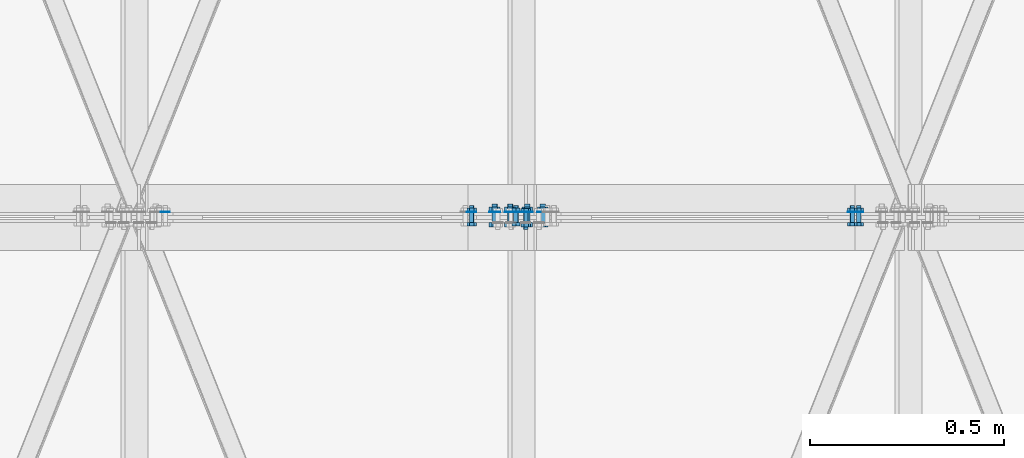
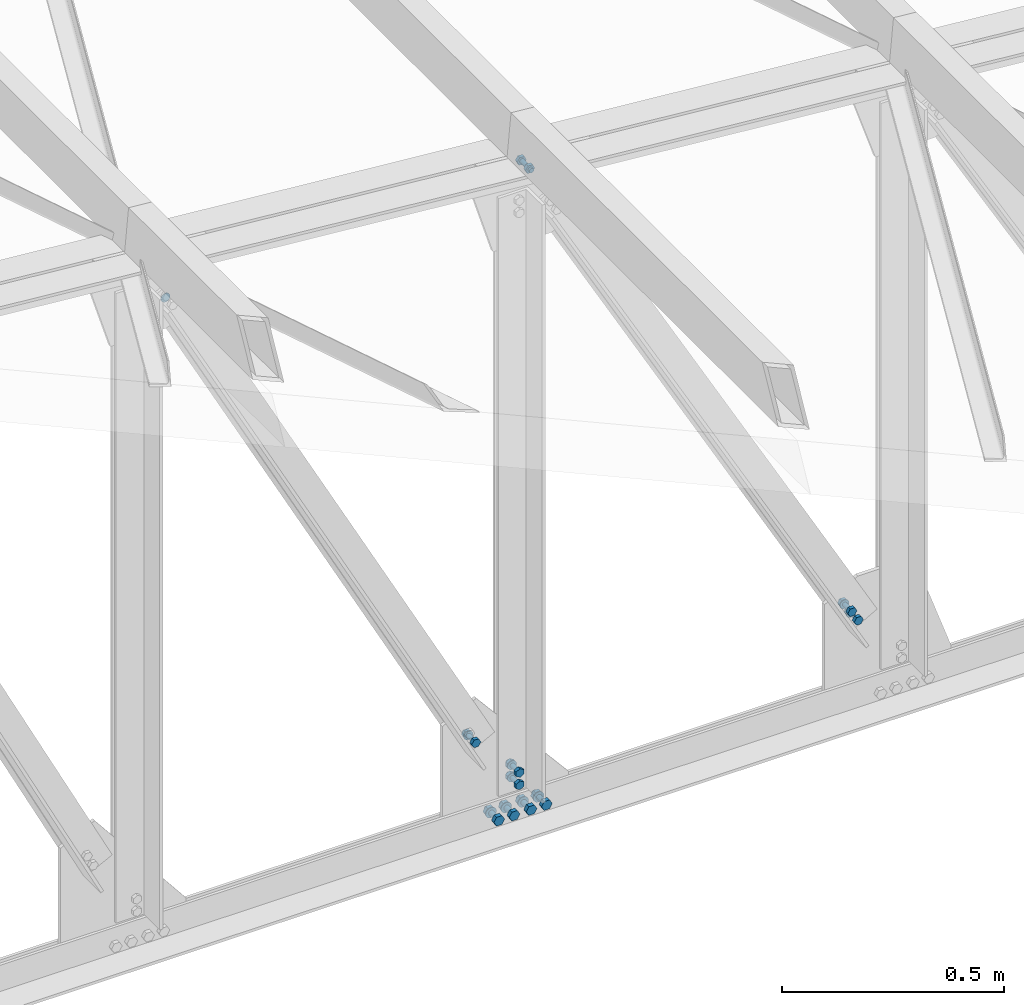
# One storey, part 81 of 251: 40 mechanical fasteners.
"""IFC4 building model written with IfcOpenShell, lengths in metres."""

from ifc_helpers import new_model, si_unit, frame, origin_with_axes, place, context, project, spatial, polyline, outline, extrude, type_object, element, save


model = new_model("IFC4")

# Units and contexts
model_context = context("Model", 3, precision=1e-05, world=origin_with_axes())
ifc_project = project(units=[si_unit("LENGTHUNIT", "METRE"), si_unit("AREAUNIT", "SQUARE_METRE"), si_unit("VOLUMEUNIT", "CUBIC_METRE"), si_unit("MASSUNIT", "GRAM", prefix="KILO"), si_unit("TIMEUNIT", "SECOND"), si_unit("PLANEANGLEUNIT", "RADIAN"), si_unit("SOLIDANGLEUNIT", "STERADIAN"), si_unit("THERMODYNAMICTEMPERATUREUNIT", "DEGREE_CELSIUS")], contexts=[model_context])

# Site, building, storey
placement_1 = place(None, origin_with_axes())
site = spatial("IfcSite", under=ifc_project, at=placement_1, Name="Italia", CompositionType="ELEMENT")
building = spatial("IfcBuilding", under=site, at=placement_1, Name="Deposito", CompositionType="ELEMENT")
storey = spatial("IfcBuildingStorey", under=building, at=placement_1, Name="Storey 0", CompositionType="ELEMENT", Elevation=0.0)

# Mechanical fasteners
mechanical_fastener_type_1 = type_object("IfcMechanicalFastenerType", Name="Reticolare 3", PredefinedType="BOLT")
placement_2 = place(placement_1, origin_with_axes())
mechanical_fastener_1_placement = place(placement_2, origin_with_axes())
element("IfcMechanicalFastener", 1, at=mechanical_fastener_1_placement, inside=storey, type_object=mechanical_fastener_type_1, Name="Reticolare 3", NominalDiameter=0.0139997, context=model_context, shape_type="SweptSolid", body=[
    extrude(outline(polyline([(0.0, 0.0), (-0.0139999, 0.0), (-0.0209999, 0.0121241), (-0.0139999, 0.0242486), (0.0, 0.0242486), (0.00699997, 0.0121241), (0.0, 0.0)])), frame((11.0192, 4.987, 4.99688), z_axis=(0.0, -1.0, 0.0), x_axis=(1.0, 0.0, 0.0)), (0.0, 0.0, 1.0), 0.0112),
])
mechanical_fastener_type_2 = type_object("IfcMechanicalFastenerType", Name="Reticolare 3", PredefinedType="BOLT")
mechanical_fastener_2_placement = place(placement_2, origin_with_axes())
element("IfcMechanicalFastener", 2, at=mechanical_fastener_2_placement, inside=storey, type_object=mechanical_fastener_type_2, Name="Reticolare 3", NominalDiameter=0.014, context=model_context, shape_type="SweptSolid", body=[
    extrude(outline(polyline([(0.0, 0.0), (-0.000238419, -0.0018115), (-0.000937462, -0.00349998), (-0.0020504, -0.00494957), (-0.00349998, -0.00606203), (-0.00518799, -0.00676155), (-0.00699997, -0.00699997), (-0.00881195, -0.00676155), (-0.0105, -0.00606203), (-0.0119495, -0.00494957), (-0.0130625, -0.00349998), (-0.0137615, -0.0018115), (-0.0139999, 0.0), (-0.0137615, 0.0018115), (-0.0130625, 0.00349998), (-0.0119495, 0.00494957), (-0.0105, 0.00606203), (-0.00881195, 0.00676155), (-0.00699997, 0.00699997), (-0.00518799, 0.00676155), (-0.00349998, 0.00606203), (-0.0020504, 0.00494957), (-0.000937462, 0.00349998), (-0.000238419, 0.0018115), (0.0, 0.0)])), frame((11.0192, 5.034, 5.009), z_axis=(0.0, -1.0, 0.0), x_axis=(1.0, 0.0, 0.0)), (0.0, 0.0, 1.0), 0.0469999),
])
mechanical_fastener_type_3 = type_object("IfcMechanicalFastenerType", Name="Reticolare 3", PredefinedType="BOLT")
mechanical_fastener_3_placement = place(placement_2, origin_with_axes())
element("IfcMechanicalFastener", 3, at=mechanical_fastener_3_placement, inside=storey, type_object=mechanical_fastener_type_3, Name="Reticolare 3", NominalDiameter=0.0139997, context=model_context, shape_type="SweptSolid", body=[
    extrude(outline(polyline([(0.0, 0.0), (-0.0139999, 0.0), (-0.0209999, 0.0121241), (-0.0139999, 0.0242486), (0.0, 0.0242486), (0.00699997, 0.0121241), (0.0, 0.0)])), frame((11.0192, 5.0262, 4.99688), z_axis=(0.0, -1.0, 0.0), x_axis=(1.0, 0.0, 0.0)), (0.0, 0.0, 1.0), 0.0112),
])
mechanical_fastener_type_4 = type_object("IfcMechanicalFastenerType", Name="Reticolare 3", PredefinedType="BOLT")
mechanical_fastener_4_placement = place(placement_2, origin_with_axes())
element("IfcMechanicalFastener", 4, at=mechanical_fastener_4_placement, inside=storey, type_object=mechanical_fastener_type_4, Name="Reticolare 3", NominalDiameter=0.028, context=model_context, shape_type="SweptSolid", body=[
    extrude(outline(polyline([(0.0, 0.0), (-0.000476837, -0.00362349), (-0.00187588, -0.00699997), (-0.0041008, -0.00989962), (-0.00699997, -0.0121245), (-0.0103769, -0.0135231), (-0.0139999, -0.0139999), (-0.0176229, -0.0135231), (-0.0209999, -0.0121245), (-0.0238991, -0.00989962), (-0.026124, -0.00699997), (-0.027523, -0.00362349), (-0.0279999, 0.0), (-0.027523, 0.00362349), (-0.026124, 0.00699997), (-0.0238991, 0.00989962), (-0.0209999, 0.0121245), (-0.0176229, 0.0135231), (-0.0139999, 0.0139999), (-0.0103769, 0.0135231), (-0.00699997, 0.0121245), (-0.0041008, 0.00989962), (-0.00187588, 0.00699997), (-0.000476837, 0.00362349), (0.0, 0.0)])), frame((11.0262, 5.015, 5.009), z_axis=(0.0, -1.0, 0.0), x_axis=(1.0, 0.0, 0.0)), (0.0, 0.0, 1.0), 0.00199986),
])
mechanical_fastener_type_5 = type_object("IfcMechanicalFastenerType", Name="Reticolare 3", PredefinedType="BOLT")
mechanical_fastener_5_placement = place(placement_2, origin_with_axes())
element("IfcMechanicalFastener", 5, at=mechanical_fastener_5_placement, inside=storey, type_object=mechanical_fastener_type_5, Name="Reticolare 3", NominalDiameter=0.0139997, context=model_context, shape_type="SweptSolid", body=[
    extrude(outline(polyline([(0.0, 0.0), (-0.0139999, 0.0), (-0.0209999, 0.0121241), (-0.0139999, 0.0242486), (0.0, 0.0242486), (0.00699997, 0.0121241), (0.0, 0.0)])), frame((10.9792, 4.987, 4.99688), z_axis=(0.0, -1.0, 0.0), x_axis=(1.0, 0.0, 0.0)), (0.0, 0.0, 1.0), 0.0112),
])
mechanical_fastener_type_6 = type_object("IfcMechanicalFastenerType", Name="Reticolare 3", PredefinedType="BOLT")
mechanical_fastener_6_placement = place(placement_2, origin_with_axes())
element("IfcMechanicalFastener", 6, at=mechanical_fastener_6_placement, inside=storey, type_object=mechanical_fastener_type_6, Name="Reticolare 3", NominalDiameter=0.014, context=model_context, shape_type="SweptSolid", body=[
    extrude(outline(polyline([(0.0, 0.0), (-0.000238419, -0.0018115), (-0.000937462, -0.00349998), (-0.0020504, -0.00494957), (-0.00349998, -0.00606203), (-0.00518799, -0.00676155), (-0.00699997, -0.00699997), (-0.00881195, -0.00676155), (-0.0105, -0.00606203), (-0.0119495, -0.00494957), (-0.0130625, -0.00349998), (-0.0137615, -0.0018115), (-0.0139999, 0.0), (-0.0137615, 0.0018115), (-0.0130625, 0.00349998), (-0.0119495, 0.00494957), (-0.0105, 0.00606203), (-0.00881195, 0.00676155), (-0.00699997, 0.00699997), (-0.00518799, 0.00676155), (-0.00349998, 0.00606203), (-0.0020504, 0.00494957), (-0.000937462, 0.00349998), (-0.000238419, 0.0018115), (0.0, 0.0)])), frame((10.9792, 5.034, 5.009), z_axis=(0.0, -1.0, 0.0), x_axis=(1.0, 0.0, 0.0)), (0.0, 0.0, 1.0), 0.0469999),
])
mechanical_fastener_type_7 = type_object("IfcMechanicalFastenerType", Name="Reticolare 3", PredefinedType="BOLT")
mechanical_fastener_7_placement = place(placement_2, origin_with_axes())
element("IfcMechanicalFastener", 7, at=mechanical_fastener_7_placement, inside=storey, type_object=mechanical_fastener_type_7, Name="Reticolare 3", NominalDiameter=0.0139997, context=model_context, shape_type="SweptSolid", body=[
    extrude(outline(polyline([(0.0, 0.0), (-0.0139999, 0.0), (-0.0209999, 0.0121241), (-0.0139999, 0.0242486), (0.0, 0.0242486), (0.00699997, 0.0121241), (0.0, 0.0)])), frame((10.9792, 5.0262, 4.99688), z_axis=(0.0, -1.0, 0.0), x_axis=(1.0, 0.0, 0.0)), (0.0, 0.0, 1.0), 0.0112),
])
mechanical_fastener_type_8 = type_object("IfcMechanicalFastenerType", Name="Reticolare 3", PredefinedType="BOLT")
mechanical_fastener_8_placement = place(placement_2, origin_with_axes())
element("IfcMechanicalFastener", 8, at=mechanical_fastener_8_placement, inside=storey, type_object=mechanical_fastener_type_8, Name="Reticolare 3", NominalDiameter=0.028, context=model_context, shape_type="SweptSolid", body=[
    extrude(outline(polyline([(0.0, 0.0), (-0.000476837, -0.00362349), (-0.00187588, -0.00699997), (-0.0041008, -0.00989962), (-0.00699997, -0.0121245), (-0.0103769, -0.0135231), (-0.0139999, -0.0139999), (-0.0176229, -0.0135231), (-0.0209999, -0.0121245), (-0.0238991, -0.00989962), (-0.026124, -0.00699997), (-0.027523, -0.00362349), (-0.0279999, 0.0), (-0.027523, 0.00362349), (-0.026124, 0.00699997), (-0.0238991, 0.00989962), (-0.0209999, 0.0121245), (-0.0176229, 0.0135231), (-0.0139999, 0.0139999), (-0.0103769, 0.0135231), (-0.00699997, 0.0121245), (-0.0041008, 0.00989962), (-0.00187588, 0.00699997), (-0.000476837, 0.00362349), (0.0, 0.0)])), frame((10.9862, 5.015, 5.009), z_axis=(0.0, -1.0, 0.0), x_axis=(1.0, 0.0, 0.0)), (0.0, 0.0, 1.0), 0.00199986),
])
mechanical_fastener_type_9 = type_object("IfcMechanicalFastenerType", Name="Reticolare 3", PredefinedType="BOLT")
mechanical_fastener_9_placement = place(placement_2, origin_with_axes())
element("IfcMechanicalFastener", 9, at=mechanical_fastener_9_placement, inside=storey, type_object=mechanical_fastener_type_9, Name="Reticolare 3", NominalDiameter=0.0139997, context=model_context, shape_type="SweptSolid", body=[
    extrude(outline(polyline([(0.0, 0.0), (-0.0139999, 0.0), (-0.0209999, 0.0121241), (-0.0139999, 0.0242486), (0.0, 0.0242486), (0.00699997, 0.0121241), (0.0, 0.0)])), frame((11.0632, 4.987, 4.99688), z_axis=(0.0, -1.0, 0.0), x_axis=(1.0, 0.0, 0.0)), (0.0, 0.0, 1.0), 0.0112),
])
mechanical_fastener_type_10 = type_object("IfcMechanicalFastenerType", Name="Reticolare 3", PredefinedType="BOLT")
mechanical_fastener_10_placement = place(placement_2, origin_with_axes())
element("IfcMechanicalFastener", 10, at=mechanical_fastener_10_placement, inside=storey, type_object=mechanical_fastener_type_10, Name="Reticolare 3", NominalDiameter=0.014, context=model_context, shape_type="SweptSolid", body=[
    extrude(outline(polyline([(0.0, 0.0), (-0.000238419, -0.0018115), (-0.000937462, -0.00349998), (-0.0020504, -0.00494957), (-0.00349998, -0.00606203), (-0.00518799, -0.00676155), (-0.00699997, -0.00699997), (-0.00881195, -0.00676155), (-0.0105, -0.00606203), (-0.0119495, -0.00494957), (-0.0130625, -0.00349998), (-0.0137615, -0.0018115), (-0.0139999, 0.0), (-0.0137615, 0.0018115), (-0.0130625, 0.00349998), (-0.0119495, 0.00494957), (-0.0105, 0.00606203), (-0.00881195, 0.00676155), (-0.00699997, 0.00699997), (-0.00518799, 0.00676155), (-0.00349998, 0.00606203), (-0.0020504, 0.00494957), (-0.000937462, 0.00349998), (-0.000238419, 0.0018115), (0.0, 0.0)])), frame((11.0632, 5.034, 5.009), z_axis=(0.0, -1.0, 0.0), x_axis=(1.0, 0.0, 0.0)), (0.0, 0.0, 1.0), 0.0469999),
])
mechanical_fastener_type_11 = type_object("IfcMechanicalFastenerType", Name="Reticolare 3", PredefinedType="BOLT")
mechanical_fastener_11_placement = place(placement_2, origin_with_axes())
element("IfcMechanicalFastener", 11, at=mechanical_fastener_11_placement, inside=storey, type_object=mechanical_fastener_type_11, Name="Reticolare 3", NominalDiameter=0.0139997, context=model_context, shape_type="SweptSolid", body=[
    extrude(outline(polyline([(0.0, 0.0), (-0.0139999, 0.0), (-0.0209999, 0.0121241), (-0.0139999, 0.0242486), (0.0, 0.0242486), (0.00699997, 0.0121241), (0.0, 0.0)])), frame((11.0632, 5.0262, 4.99688), z_axis=(0.0, -1.0, 0.0), x_axis=(1.0, 0.0, 0.0)), (0.0, 0.0, 1.0), 0.0112),
])
mechanical_fastener_type_12 = type_object("IfcMechanicalFastenerType", Name="Reticolare 3", PredefinedType="BOLT")
mechanical_fastener_12_placement = place(placement_2, origin_with_axes())
element("IfcMechanicalFastener", 12, at=mechanical_fastener_12_placement, inside=storey, type_object=mechanical_fastener_type_12, Name="Reticolare 3", NominalDiameter=0.028, context=model_context, shape_type="SweptSolid", body=[
    extrude(outline(polyline([(0.0, 0.0), (-0.000476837, -0.00362349), (-0.00187588, -0.00699997), (-0.0041008, -0.00989962), (-0.00699997, -0.0121245), (-0.0103769, -0.0135231), (-0.0139999, -0.0139999), (-0.0176229, -0.0135231), (-0.0209999, -0.0121245), (-0.0238991, -0.00989962), (-0.026124, -0.00699997), (-0.027523, -0.00362349), (-0.0279999, 0.0), (-0.027523, 0.00362349), (-0.026124, 0.00699997), (-0.0238991, 0.00989962), (-0.0209999, 0.0121245), (-0.0176229, 0.0135231), (-0.0139999, 0.0139999), (-0.0103769, 0.0135231), (-0.00699997, 0.0121245), (-0.0041008, 0.00989962), (-0.00187588, 0.00699997), (-0.000476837, 0.00362349), (0.0, 0.0)])), frame((11.0702, 5.015, 5.009), z_axis=(0.0, -1.0, 0.0), x_axis=(1.0, 0.0, 0.0)), (0.0, 0.0, 1.0), 0.00199986),
])
mechanical_fastener_type_13 = type_object("IfcMechanicalFastenerType", Name="Reticolare 3", PredefinedType="BOLT")
mechanical_fastener_13_placement = place(placement_2, origin_with_axes())
element("IfcMechanicalFastener", 13, at=mechanical_fastener_13_placement, inside=storey, type_object=mechanical_fastener_type_13, Name="Reticolare 3", NominalDiameter=0.0139997, context=model_context, shape_type="SweptSolid", body=[
    extrude(outline(polyline([(0.0, 0.0), (-0.0139999, 0.0), (-0.0209999, 0.0121241), (-0.0139999, 0.0242486), (0.0, 0.0242486), (0.00699997, 0.0121241), (0.0, 0.0)])), frame((11.1032, 4.987, 4.99688), z_axis=(0.0, -1.0, 0.0), x_axis=(1.0, 0.0, 0.0)), (0.0, 0.0, 1.0), 0.0112),
])
mechanical_fastener_type_14 = type_object("IfcMechanicalFastenerType", Name="Reticolare 3", PredefinedType="BOLT")
mechanical_fastener_14_placement = place(placement_2, origin_with_axes())
element("IfcMechanicalFastener", 14, at=mechanical_fastener_14_placement, inside=storey, type_object=mechanical_fastener_type_14, Name="Reticolare 3", NominalDiameter=0.014, context=model_context, shape_type="SweptSolid", body=[
    extrude(outline(polyline([(0.0, 0.0), (-0.000238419, -0.0018115), (-0.000937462, -0.00349998), (-0.0020504, -0.00494957), (-0.00349998, -0.00606203), (-0.00518799, -0.00676155), (-0.00699997, -0.00699997), (-0.00881195, -0.00676155), (-0.0105, -0.00606203), (-0.0119495, -0.00494957), (-0.0130625, -0.00349998), (-0.0137615, -0.0018115), (-0.0139999, 0.0), (-0.0137615, 0.0018115), (-0.0130625, 0.00349998), (-0.0119495, 0.00494957), (-0.0105, 0.00606203), (-0.00881195, 0.00676155), (-0.00699997, 0.00699997), (-0.00518799, 0.00676155), (-0.00349998, 0.00606203), (-0.0020504, 0.00494957), (-0.000937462, 0.00349998), (-0.000238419, 0.0018115), (0.0, 0.0)])), frame((11.1032, 5.034, 5.009), z_axis=(0.0, -1.0, 0.0), x_axis=(1.0, 0.0, 0.0)), (0.0, 0.0, 1.0), 0.0469999),
])
mechanical_fastener_type_15 = type_object("IfcMechanicalFastenerType", Name="Reticolare 3", PredefinedType="BOLT")
mechanical_fastener_15_placement = place(placement_2, origin_with_axes())
element("IfcMechanicalFastener", 15, at=mechanical_fastener_15_placement, inside=storey, type_object=mechanical_fastener_type_15, Name="Reticolare 3", NominalDiameter=0.0139997, context=model_context, shape_type="SweptSolid", body=[
    extrude(outline(polyline([(0.0, 0.0), (-0.0139999, 0.0), (-0.0209999, 0.0121241), (-0.0139999, 0.0242486), (0.0, 0.0242486), (0.00699997, 0.0121241), (0.0, 0.0)])), frame((11.1032, 5.0262, 4.99688), z_axis=(0.0, -1.0, 0.0), x_axis=(1.0, 0.0, 0.0)), (0.0, 0.0, 1.0), 0.0112),
])
mechanical_fastener_type_16 = type_object("IfcMechanicalFastenerType", Name="Reticolare 3", PredefinedType="BOLT")
mechanical_fastener_16_placement = place(placement_2, origin_with_axes())
element("IfcMechanicalFastener", 16, at=mechanical_fastener_16_placement, inside=storey, type_object=mechanical_fastener_type_16, Name="Reticolare 3", NominalDiameter=0.028, context=model_context, shape_type="SweptSolid", body=[
    extrude(outline(polyline([(0.0, 0.0), (-0.000476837, -0.00362349), (-0.00187588, -0.00699997), (-0.0041008, -0.00989962), (-0.00699997, -0.0121245), (-0.0103769, -0.0135231), (-0.0139999, -0.0139999), (-0.0176229, -0.0135231), (-0.0209999, -0.0121245), (-0.0238991, -0.00989962), (-0.026124, -0.00699997), (-0.027523, -0.00362349), (-0.0279999, 0.0), (-0.027523, 0.00362349), (-0.026124, 0.00699997), (-0.0238991, 0.00989962), (-0.0209999, 0.0121245), (-0.0176229, 0.0135231), (-0.0139999, 0.0139999), (-0.0103769, 0.0135231), (-0.00699997, 0.0121245), (-0.0041008, 0.00989962), (-0.00187588, 0.00699997), (-0.000476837, 0.00362349), (0.0, 0.0)])), frame((11.1102, 5.015, 5.009), z_axis=(0.0, -1.0, 0.0), x_axis=(1.0, 0.0, 0.0)), (0.0, 0.0, 1.0), 0.00199986),
])
mechanical_fastener_type_17 = type_object("IfcMechanicalFastenerType", Name="Reticolare 3", PredefinedType="BOLT")
mechanical_fastener_17_placement = place(placement_2, origin_with_axes())
element("IfcMechanicalFastener", 17, at=mechanical_fastener_17_placement, inside=storey, type_object=mechanical_fastener_type_17, Name="Reticolare 3", NominalDiameter=0.0119999, context=model_context, shape_type="SweptSolid", body=[
    extrude(outline(polyline([(0.0, 0.0), (0.0, -0.0120001), (-0.0103922, -0.0180001), (-0.0207844, -0.0120001), (-0.0207844, 0.0), (-0.0103922, 0.00600004), (0.0, 0.0)])), frame((11.0376, 4.987, 5.09253), z_axis=(0.0, -1.0, 0.0), x_axis=(1.0, 0.0, 0.0)), (0.0, 0.0, 1.0), 0.00960016),
])
mechanical_fastener_type_18 = type_object("IfcMechanicalFastenerType", Name="Reticolare 3", PredefinedType="BOLT")
mechanical_fastener_18_placement = place(placement_2, origin_with_axes())
element("IfcMechanicalFastener", 18, at=mechanical_fastener_18_placement, inside=storey, type_object=mechanical_fastener_type_18, Name="Reticolare 3", NominalDiameter=0.012, context=model_context, shape_type="SweptSolid", body=[
    extrude(outline(polyline([(0.0, 0.0), (-0.000204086, -0.00155306), (-0.000802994, -0.00299978), (-0.00175667, -0.00424242), (-0.00299931, -0.00519609), (-0.00444698, -0.00579548), (-0.00599957, -0.00600004), (-0.00755215, -0.00579548), (-0.00899982, -0.00519609), (-0.0102425, -0.00424242), (-0.0111961, -0.00299978), (-0.011795, -0.00155306), (-0.0119991, 0.0), (-0.011795, 0.00155306), (-0.0111961, 0.00299978), (-0.0102425, 0.00424242), (-0.00899982, 0.00519609), (-0.00755215, 0.00579548), (-0.00599957, 0.00600004), (-0.00444698, 0.00579548), (-0.00299931, 0.00519609), (-0.00175667, 0.00424242), (-0.000802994, 0.00299978), (-0.000204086, 0.00155306), (0.0, 0.0)])), frame((11.0332, 5.031, 5.08653), z_axis=(0.0, -1.0, 0.0), x_axis=(1.0, 0.0, 0.0)), (0.0, 0.0, 1.0), 0.0440001),
])
mechanical_fastener_type_19 = type_object("IfcMechanicalFastenerType", Name="Reticolare 3", PredefinedType="BOLT")
mechanical_fastener_19_placement = place(placement_2, origin_with_axes())
element("IfcMechanicalFastener", 19, at=mechanical_fastener_19_placement, inside=storey, type_object=mechanical_fastener_type_19, Name="Reticolare 3", NominalDiameter=0.0119999, context=model_context, shape_type="SweptSolid", body=[
    extrude(outline(polyline([(0.0, 0.0), (0.0, -0.0120001), (-0.0103922, -0.0180001), (-0.0207844, -0.0120001), (-0.0207844, 0.0), (-0.0103922, 0.00600004), (0.0, 0.0)])), frame((11.0376, 5.0246, 5.09253), z_axis=(0.0, -1.0, 0.0), x_axis=(1.0, 0.0, 0.0)), (0.0, 0.0, 1.0), 0.00960016),
])
mechanical_fastener_type_20 = type_object("IfcMechanicalFastenerType", Name="Reticolare 3", PredefinedType="BOLT")
mechanical_fastener_20_placement = place(placement_2, origin_with_axes())
element("IfcMechanicalFastener", 20, at=mechanical_fastener_20_placement, inside=storey, type_object=mechanical_fastener_type_20, Name="Reticolare 3", NominalDiameter=0.024, context=model_context, shape_type="SweptSolid", body=[
    extrude(outline(polyline([(0.0, 0.0), (-0.000409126, -0.00310564), (-0.00160789, -0.00600004), (-0.00351524, -0.00848532), (-0.00600052, -0.0103922), (-0.00889397, -0.011591), (-0.0120001, -0.0120001), (-0.0151062, -0.011591), (-0.0179996, -0.0103922), (-0.0204849, -0.00848532), (-0.0223923, -0.00600004), (-0.023591, -0.00310564), (-0.0240002, 0.0), (-0.023591, 0.00310564), (-0.0223923, 0.00600004), (-0.0204849, 0.00848532), (-0.0179996, 0.0103922), (-0.0151062, 0.011591), (-0.0120001, 0.0120001), (-0.00889397, 0.011591), (-0.00600052, 0.0103922), (-0.00351524, 0.00848532), (-0.00160789, 0.00600004), (-0.000409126, 0.00310564), (0.0, 0.0)])), frame((11.0392, 5.015, 5.08653), z_axis=(0.0, -1.0, 0.0), x_axis=(1.0, 0.0, 0.0)), (0.0, 0.0, 1.0), 0.00199986),
])
mechanical_fastener_type_21 = type_object("IfcMechanicalFastenerType", Name="Reticolare 3", PredefinedType="BOLT")
mechanical_fastener_21_placement = place(placement_2, origin_with_axes())
element("IfcMechanicalFastener", 21, at=mechanical_fastener_21_placement, inside=storey, type_object=mechanical_fastener_type_21, Name="Reticolare 3", NominalDiameter=0.0119999, context=model_context, shape_type="SweptSolid", body=[
    extrude(outline(polyline([(0.0, 0.0), (0.0, -0.0120001), (-0.0103922, -0.0180001), (-0.0207844, -0.0120001), (-0.0207844, 0.0), (-0.0103922, 0.00600004), (0.0, 0.0)])), frame((11.0376, 4.987, 5.12653), z_axis=(0.0, -1.0, 0.0), x_axis=(1.0, 0.0, 0.0)), (0.0, 0.0, 1.0), 0.00960016),
])
mechanical_fastener_type_22 = type_object("IfcMechanicalFastenerType", Name="Reticolare 3", PredefinedType="BOLT")
mechanical_fastener_22_placement = place(placement_2, origin_with_axes())
element("IfcMechanicalFastener", 22, at=mechanical_fastener_22_placement, inside=storey, type_object=mechanical_fastener_type_22, Name="Reticolare 3", NominalDiameter=0.012, context=model_context, shape_type="SweptSolid", body=[
    extrude(outline(polyline([(0.0, 0.0), (-0.000204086, -0.00155306), (-0.000802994, -0.00299978), (-0.00175667, -0.00424242), (-0.00299931, -0.00519609), (-0.00444698, -0.00579548), (-0.00599957, -0.00600004), (-0.00755215, -0.00579548), (-0.00899982, -0.00519609), (-0.0102425, -0.00424242), (-0.0111961, -0.00299978), (-0.011795, -0.00155306), (-0.0119991, 0.0), (-0.011795, 0.00155306), (-0.0111961, 0.00299978), (-0.0102425, 0.00424242), (-0.00899982, 0.00519609), (-0.00755215, 0.00579548), (-0.00599957, 0.00600004), (-0.00444698, 0.00579548), (-0.00299931, 0.00519609), (-0.00175667, 0.00424242), (-0.000802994, 0.00299978), (-0.000204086, 0.00155306), (0.0, 0.0)])), frame((11.0332, 5.031, 5.12053), z_axis=(0.0, -1.0, 0.0), x_axis=(1.0, 0.0, 0.0)), (0.0, 0.0, 1.0), 0.0440001),
])
mechanical_fastener_type_23 = type_object("IfcMechanicalFastenerType", Name="Reticolare 3", PredefinedType="BOLT")
mechanical_fastener_23_placement = place(placement_2, origin_with_axes())
element("IfcMechanicalFastener", 23, at=mechanical_fastener_23_placement, inside=storey, type_object=mechanical_fastener_type_23, Name="Reticolare 3", NominalDiameter=0.0119999, context=model_context, shape_type="SweptSolid", body=[
    extrude(outline(polyline([(0.0, 0.0), (0.0, -0.0120001), (-0.0103922, -0.0180001), (-0.0207844, -0.0120001), (-0.0207844, 0.0), (-0.0103922, 0.00600004), (0.0, 0.0)])), frame((11.0376, 5.0246, 5.12653), z_axis=(0.0, -1.0, 0.0), x_axis=(1.0, 0.0, 0.0)), (0.0, 0.0, 1.0), 0.00960016),
])
mechanical_fastener_type_24 = type_object("IfcMechanicalFastenerType", Name="Reticolare 3", PredefinedType="BOLT")
mechanical_fastener_24_placement = place(placement_2, origin_with_axes())
element("IfcMechanicalFastener", 24, at=mechanical_fastener_24_placement, inside=storey, type_object=mechanical_fastener_type_24, Name="Reticolare 3", NominalDiameter=0.024, context=model_context, shape_type="SweptSolid", body=[
    extrude(outline(polyline([(0.0, 0.0), (-0.000409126, -0.00310564), (-0.00160789, -0.00600004), (-0.00351524, -0.00848532), (-0.00600052, -0.0103922), (-0.00889397, -0.011591), (-0.0120001, -0.0120001), (-0.0151062, -0.011591), (-0.0179996, -0.0103922), (-0.0204849, -0.00848532), (-0.0223923, -0.00600004), (-0.023591, -0.00310564), (-0.0240002, 0.0), (-0.023591, 0.00310564), (-0.0223923, 0.00600004), (-0.0204849, 0.00848532), (-0.0179996, 0.0103922), (-0.0151062, 0.011591), (-0.0120001, 0.0120001), (-0.00889397, 0.011591), (-0.00600052, 0.0103922), (-0.00351524, 0.00848532), (-0.00160789, 0.00600004), (-0.000409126, 0.00310564), (0.0, 0.0)])), frame((11.0392, 5.015, 5.12053), z_axis=(0.0, -1.0, 0.0), x_axis=(1.0, 0.0, 0.0)), (0.0, 0.0, 1.0), 0.00199986),
])
mechanical_fastener_type_25 = type_object("IfcMechanicalFastenerType", Name="Reticolare 3", PredefinedType="BOLT")
mechanical_fastener_25_placement = place(placement_2, origin_with_axes())
element("IfcMechanicalFastener", 25, at=mechanical_fastener_25_placement, inside=storey, type_object=mechanical_fastener_type_25, Name="Reticolare 3", NominalDiameter=0.0119996, context=model_context, shape_type="SweptSolid", body=[
    extrude(outline(polyline([(0.0, 0.0), (-0.00563812, 0.0105929), (0.000716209, 0.0207725), (0.0127087, 0.020359), (0.0183477, 0.0097661), (0.0119934, -0.000413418), (0.0, 0.0)])), frame((10.9069, 4.987, 5.23209), z_axis=(0.0, -1.0, 0.0), x_axis=(1.0, 0.0, 0.0)), (0.0, 0.0, 1.0), 0.00960016),
])
mechanical_fastener_type_26 = type_object("IfcMechanicalFastenerType", Name="Reticolare 3", PredefinedType="BOLT")
mechanical_fastener_26_placement = place(placement_2, origin_with_axes())
element("IfcMechanicalFastener", 26, at=mechanical_fastener_26_placement, inside=storey, type_object=mechanical_fastener_type_26, Name="Reticolare 3", NominalDiameter=0.012, context=model_context, shape_type="SweptSolid", body=[
    extrude(outline(polyline([(0.0, 0.0), (-0.000204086, -0.00155306), (-0.000802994, -0.00299978), (-0.00175667, -0.00424242), (-0.00299931, -0.00519609), (-0.00444698, -0.00579548), (-0.00599957, -0.00600004), (-0.00755215, -0.00579548), (-0.00899982, -0.00519609), (-0.0102425, -0.00424242), (-0.0111961, -0.00299978), (-0.011795, -0.00155306), (-0.0119991, 0.0), (-0.011795, 0.00155306), (-0.0111961, 0.00299978), (-0.0102425, 0.00424242), (-0.00899982, 0.00519609), (-0.00755215, 0.00579548), (-0.00599957, 0.00600004), (-0.00444698, 0.00579548), (-0.00299931, 0.00519609), (-0.00175667, 0.00424242), (-0.000802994, 0.00299978), (-0.000204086, 0.00155306), (0.0, 0.0)])), frame((10.9192, 5.031, 5.24226), z_axis=(0.0, -1.0, 0.0), x_axis=(1.0, 0.0, 0.0)), (0.0, 0.0, 1.0), 0.0440001),
])
mechanical_fastener_type_27 = type_object("IfcMechanicalFastenerType", Name="Reticolare 3", PredefinedType="BOLT")
mechanical_fastener_27_placement = place(placement_2, origin_with_axes())
element("IfcMechanicalFastener", 27, at=mechanical_fastener_27_placement, inside=storey, type_object=mechanical_fastener_type_27, Name="Reticolare 3", NominalDiameter=0.0119996, context=model_context, shape_type="SweptSolid", body=[
    extrude(outline(polyline([(0.0, 0.0), (-0.00563812, 0.0105929), (0.000716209, 0.0207725), (0.0127087, 0.020359), (0.0183477, 0.0097661), (0.0119934, -0.000413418), (0.0, 0.0)])), frame((10.9069, 5.0246, 5.23209), z_axis=(0.0, -1.0, 0.0), x_axis=(1.0, 0.0, 0.0)), (0.0, 0.0, 1.0), 0.00960016),
])
mechanical_fastener_type_28 = type_object("IfcMechanicalFastenerType", Name="Reticolare 3", PredefinedType="BOLT")
mechanical_fastener_28_placement = place(placement_2, origin_with_axes())
element("IfcMechanicalFastener", 28, at=mechanical_fastener_28_placement, inside=storey, type_object=mechanical_fastener_type_28, Name="Reticolare 3", NominalDiameter=0.024, context=model_context, shape_type="SweptSolid", body=[
    extrude(outline(polyline([(0.0, 0.0), (-0.000409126, -0.00310564), (-0.00160789, -0.00600004), (-0.00351524, -0.00848532), (-0.00600052, -0.0103922), (-0.00889397, -0.011591), (-0.0120001, -0.0120001), (-0.0151062, -0.011591), (-0.0179996, -0.0103922), (-0.0204849, -0.00848532), (-0.0223923, -0.00600004), (-0.023591, -0.00310564), (-0.0240002, 0.0), (-0.023591, 0.00310564), (-0.0223923, 0.00600004), (-0.0204849, 0.00848532), (-0.0179996, 0.0103922), (-0.0151062, 0.011591), (-0.0120001, 0.0120001), (-0.00889397, 0.011591), (-0.00600052, 0.0103922), (-0.00351524, 0.00848532), (-0.00160789, 0.00600004), (-0.000409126, 0.00310564), (0.0, 0.0)])), frame((10.9252, 5.015, 5.24226), z_axis=(0.0, -1.0, 0.0), x_axis=(1.0, 0.0, 0.0)), (0.0, 0.0, 1.0), 0.00199986),
])
mechanical_fastener_type_29 = type_object("IfcMechanicalFastenerType", Name="Reticolare 3", PredefinedType="BOLT")
mechanical_fastener_29_placement = place(placement_2, origin_with_axes())
element("IfcMechanicalFastener", 29, at=mechanical_fastener_29_placement, inside=storey, type_object=mechanical_fastener_type_29, Name="Reticolare 3", NominalDiameter=0.0119994, context=model_context, shape_type="SweptSolid", body=[
    extrude(outline(polyline([(0.0, 0.0), (-0.00584888, 0.0104775), (0.000300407, 0.0207825), (0.0122986, 0.0206094), (0.0181484, 0.0101314), (0.0119991, -0.000173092), (0.0, 0.0)])), frame((11.9034, 4.987, 5.22057), z_axis=(0.0, -1.0, 0.0), x_axis=(1.0, 0.0, 0.0)), (0.0, 0.0, 1.0), 0.00960016),
])
mechanical_fastener_type_30 = type_object("IfcMechanicalFastenerType", Name="Reticolare 3", PredefinedType="BOLT")
mechanical_fastener_30_placement = place(placement_2, origin_with_axes())
element("IfcMechanicalFastener", 30, at=mechanical_fastener_30_placement, inside=storey, type_object=mechanical_fastener_type_30, Name="Reticolare 3", NominalDiameter=0.012, context=model_context, shape_type="SweptSolid", body=[
    extrude(outline(polyline([(0.0, 0.0), (-0.000204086, -0.00155306), (-0.000802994, -0.00299978), (-0.00175667, -0.00424242), (-0.00299931, -0.00519609), (-0.00444698, -0.00579548), (-0.00599957, -0.00600004), (-0.00755215, -0.00579548), (-0.00899982, -0.00519609), (-0.0102425, -0.00424242), (-0.0111961, -0.00299978), (-0.011795, -0.00155306), (-0.0119991, 0.0), (-0.011795, 0.00155306), (-0.0111961, 0.00299978), (-0.0102425, 0.00424242), (-0.00899982, 0.00519609), (-0.00755215, 0.00579548), (-0.00599957, 0.00600004), (-0.00444698, 0.00579548), (-0.00299931, 0.00519609), (-0.00175667, 0.00424242), (-0.000802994, 0.00299978), (-0.000204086, 0.00155306), (0.0, 0.0)])), frame((11.9156, 5.031, 5.23087), z_axis=(0.0, -1.0, 0.0), x_axis=(1.0, 0.0, 0.0)), (0.0, 0.0, 1.0), 0.0440001),
])
mechanical_fastener_type_31 = type_object("IfcMechanicalFastenerType", Name="Reticolare 3", PredefinedType="BOLT")
mechanical_fastener_31_placement = place(placement_2, origin_with_axes())
element("IfcMechanicalFastener", 31, at=mechanical_fastener_31_placement, inside=storey, type_object=mechanical_fastener_type_31, Name="Reticolare 3", NominalDiameter=0.0119994, context=model_context, shape_type="SweptSolid", body=[
    extrude(outline(polyline([(0.0, 0.0), (-0.00584888, 0.0104775), (0.000300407, 0.0207825), (0.0122986, 0.0206094), (0.0181484, 0.0101314), (0.0119991, -0.000173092), (0.0, 0.0)])), frame((11.9034, 5.0246, 5.22057), z_axis=(0.0, -1.0, 0.0), x_axis=(1.0, 0.0, 0.0)), (0.0, 0.0, 1.0), 0.00960016),
])
mechanical_fastener_type_32 = type_object("IfcMechanicalFastenerType", Name="Reticolare 3", PredefinedType="BOLT")
mechanical_fastener_32_placement = place(placement_2, origin_with_axes())
element("IfcMechanicalFastener", 32, at=mechanical_fastener_32_placement, inside=storey, type_object=mechanical_fastener_type_32, Name="Reticolare 3", NominalDiameter=0.024, context=model_context, shape_type="SweptSolid", body=[
    extrude(outline(polyline([(0.0, 0.0), (-0.000409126, -0.00310564), (-0.00160789, -0.00600004), (-0.00351524, -0.00848532), (-0.00600052, -0.0103922), (-0.00889397, -0.011591), (-0.0120001, -0.0120001), (-0.0151062, -0.011591), (-0.0179996, -0.0103922), (-0.0204849, -0.00848532), (-0.0223923, -0.00600004), (-0.023591, -0.00310564), (-0.0240002, 0.0), (-0.023591, 0.00310564), (-0.0223923, 0.00600004), (-0.0204849, 0.00848532), (-0.0179996, 0.0103922), (-0.0151062, 0.011591), (-0.0120001, 0.0120001), (-0.00889397, 0.011591), (-0.00600052, 0.0103922), (-0.00351524, 0.00848532), (-0.00160789, 0.00600004), (-0.000409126, 0.00310564), (0.0, 0.0)])), frame((11.9216, 5.015, 5.23087), z_axis=(0.0, -1.0, 0.0), x_axis=(1.0, 0.0, 0.0)), (0.0, 0.0, 1.0), 0.00199986),
])
mechanical_fastener_type_33 = type_object("IfcMechanicalFastenerType", Name="Reticolare 3", PredefinedType="BOLT")
mechanical_fastener_33_placement = place(placement_2, origin_with_axes())
element("IfcMechanicalFastener", 33, at=mechanical_fastener_33_placement, inside=storey, type_object=mechanical_fastener_type_33, Name="Reticolare 3", NominalDiameter=0.0119994, context=model_context, shape_type="SweptSolid", body=[
    extrude(outline(polyline([(0.0, 0.0), (-0.00584984, 0.0104775), (0.000299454, 0.0207825), (0.0122986, 0.0206094), (0.0181475, 0.0101314), (0.0119982, -0.000173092), (0.0, 0.0)])), frame((11.8868, 4.987, 5.25025), z_axis=(0.0, -1.0, 0.0), x_axis=(1.0, 0.0, 0.0)), (0.0, 0.0, 1.0), 0.00960016),
])
mechanical_fastener_type_34 = type_object("IfcMechanicalFastenerType", Name="Reticolare 3", PredefinedType="BOLT")
mechanical_fastener_34_placement = place(placement_2, origin_with_axes())
element("IfcMechanicalFastener", 34, at=mechanical_fastener_34_placement, inside=storey, type_object=mechanical_fastener_type_34, Name="Reticolare 3", NominalDiameter=0.012, context=model_context, shape_type="SweptSolid", body=[
    extrude(outline(polyline([(0.0, 0.0), (-0.000204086, -0.00155306), (-0.000802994, -0.00299978), (-0.00175667, -0.00424242), (-0.00299931, -0.00519609), (-0.00444698, -0.00579548), (-0.00599957, -0.00600004), (-0.00755215, -0.00579548), (-0.00899982, -0.00519609), (-0.0102425, -0.00424242), (-0.0111961, -0.00299978), (-0.011795, -0.00155306), (-0.0119991, 0.0), (-0.011795, 0.00155306), (-0.0111961, 0.00299978), (-0.0102425, 0.00424242), (-0.00899982, 0.00519609), (-0.00755215, 0.00579548), (-0.00599957, 0.00600004), (-0.00444698, 0.00579548), (-0.00299931, 0.00519609), (-0.00175667, 0.00424242), (-0.000802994, 0.00299978), (-0.000204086, 0.00155306), (0.0, 0.0)])), frame((11.899, 5.031, 5.26056), z_axis=(0.0, -1.0, 0.0), x_axis=(1.0, 0.0, 0.0)), (0.0, 0.0, 1.0), 0.0440001),
])
mechanical_fastener_type_35 = type_object("IfcMechanicalFastenerType", Name="Reticolare 3", PredefinedType="BOLT")
mechanical_fastener_35_placement = place(placement_2, origin_with_axes())
element("IfcMechanicalFastener", 35, at=mechanical_fastener_35_placement, inside=storey, type_object=mechanical_fastener_type_35, Name="Reticolare 3", NominalDiameter=0.0119994, context=model_context, shape_type="SweptSolid", body=[
    extrude(outline(polyline([(0.0, 0.0), (-0.00584984, 0.0104775), (0.000299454, 0.0207825), (0.0122986, 0.0206094), (0.0181475, 0.0101314), (0.0119982, -0.000173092), (0.0, 0.0)])), frame((11.8868, 5.0246, 5.25025), z_axis=(0.0, -1.0, 0.0), x_axis=(1.0, 0.0, 0.0)), (0.0, 0.0, 1.0), 0.00960016),
])
mechanical_fastener_type_36 = type_object("IfcMechanicalFastenerType", Name="Reticolare 3", PredefinedType="BOLT")
mechanical_fastener_36_placement = place(placement_2, origin_with_axes())
element("IfcMechanicalFastener", 36, at=mechanical_fastener_36_placement, inside=storey, type_object=mechanical_fastener_type_36, Name="Reticolare 3", NominalDiameter=0.024, context=model_context, shape_type="SweptSolid", body=[
    extrude(outline(polyline([(0.0, 0.0), (-0.000409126, -0.00310564), (-0.00160789, -0.00600004), (-0.00351524, -0.00848532), (-0.00600052, -0.0103922), (-0.00889397, -0.011591), (-0.0120001, -0.0120001), (-0.0151062, -0.011591), (-0.0179996, -0.0103922), (-0.0204849, -0.00848532), (-0.0223923, -0.00600004), (-0.023591, -0.00310564), (-0.0240002, 0.0), (-0.023591, 0.00310564), (-0.0223923, 0.00600004), (-0.0204849, 0.00848532), (-0.0179996, 0.0103922), (-0.0151062, 0.011591), (-0.0120001, 0.0120001), (-0.00889397, 0.011591), (-0.00600052, 0.0103922), (-0.00351524, 0.00848532), (-0.00160789, 0.00600004), (-0.000409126, 0.00310564), (0.0, 0.0)])), frame((11.905, 5.015, 5.26056), z_axis=(0.0, -1.0, 0.0), x_axis=(1.0, 0.0, 0.0)), (0.0, 0.0, 1.0), 0.00199986),
])
mechanical_fastener_type_37 = type_object("IfcMechanicalFastenerType", Name="Reticolare 3", PredefinedType="BOLT")
mechanical_fastener_37_placement = place(placement_2, origin_with_axes())
element("IfcMechanicalFastener", 37, at=mechanical_fastener_37_placement, inside=storey, type_object=mechanical_fastener_type_37, Name="Reticolare 3", NominalDiameter=0.0119997, context=model_context, shape_type="SweptSolid", body=[
    extrude(outline(polyline([(0.0, 0.0), (0.0119543, 0.0010457), (0.0188379, -0.00878429), (0.0137663, -0.01966), (0.00181198, -0.0207057), (-0.00507069, -0.0108757), (0.0, 0.0)])), frame((11.0594, 5.013, 6.7856), z_axis=(0.0, 1.0, 0.0), x_axis=(-1.0, 0.0, 0.0)), (0.0, 0.0, 1.0), 0.00960016),
])
mechanical_fastener_type_38 = type_object("IfcMechanicalFastenerType", Name="Reticolare 3", PredefinedType="BOLT")
mechanical_fastener_38_placement = place(placement_2, origin_with_axes())
element("IfcMechanicalFastener", 38, at=mechanical_fastener_38_placement, inside=storey, type_object=mechanical_fastener_type_38, Name="Reticolare 3", NominalDiameter=0.012, context=model_context, shape_type="SweptSolid", body=[
    extrude(outline(polyline([(0.0, 0.0), (-0.000204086, -0.00155306), (-0.000802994, -0.00299978), (-0.00175667, -0.00424242), (-0.00299931, -0.00519609), (-0.00444698, -0.00579548), (-0.00599957, -0.00600004), (-0.00755215, -0.00579548), (-0.00899982, -0.00519609), (-0.0102425, -0.00424242), (-0.0111961, -0.00299978), (-0.011795, -0.00155306), (-0.0119991, 0.0), (-0.011795, 0.00155306), (-0.0111961, 0.00299978), (-0.0102425, 0.00424242), (-0.00899982, 0.00519609), (-0.00755215, 0.00579548), (-0.00599957, 0.00600004), (-0.00444698, 0.00579548), (-0.00299931, 0.00519609), (-0.00175667, 0.00424242), (-0.000802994, 0.00299978), (-0.000204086, 0.00155306), (0.0, 0.0)])), frame((11.0466, 4.969, 6.77577), z_axis=(0.0, 1.0, 0.0), x_axis=(-1.0, 0.0, 0.0)), (0.0, 0.0, 1.0), 0.0440001),
])
mechanical_fastener_type_39 = type_object("IfcMechanicalFastenerType", Name="Reticolare 3", PredefinedType="BOLT")
mechanical_fastener_39_placement = place(placement_2, origin_with_axes())
element("IfcMechanicalFastener", 39, at=mechanical_fastener_39_placement, inside=storey, type_object=mechanical_fastener_type_39, Name="Reticolare 3", NominalDiameter=0.0119997, context=model_context, shape_type="SweptSolid", body=[
    extrude(outline(polyline([(0.0, 0.0), (0.0119543, 0.0010457), (0.0188379, -0.00878429), (0.0137663, -0.01966), (0.00181198, -0.0207057), (-0.00507069, -0.0108757), (0.0, 0.0)])), frame((11.0594, 4.9754, 6.7856), z_axis=(0.0, 1.0, 0.0), x_axis=(-1.0, 0.0, 0.0)), (0.0, 0.0, 1.0), 0.00960016),
])
mechanical_fastener_type_40 = type_object("IfcMechanicalFastenerType", Name="Reticolare 3", PredefinedType="BOLT")
mechanical_fastener_40_placement = place(placement_2, origin_with_axes())
element("IfcMechanicalFastener", 40, at=mechanical_fastener_40_placement, inside=storey, type_object=mechanical_fastener_type_40, Name="Reticolare 3", NominalDiameter=0.024, context=model_context, shape_type="SweptSolid", body=[
    extrude(outline(polyline([(0.0, 0.0), (-0.000409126, -0.00310564), (-0.00160789, -0.00600004), (-0.00351524, -0.00848532), (-0.00600052, -0.0103922), (-0.00889397, -0.011591), (-0.0120001, -0.0120001), (-0.0151062, -0.011591), (-0.0179996, -0.0103922), (-0.0204849, -0.00848532), (-0.0223923, -0.00600004), (-0.023591, -0.00310564), (-0.0240002, 0.0), (-0.023591, 0.00310564), (-0.0223923, 0.00600004), (-0.0204849, 0.00848532), (-0.0179996, 0.0103922), (-0.0151062, 0.011591), (-0.0120001, 0.0120001), (-0.00889397, 0.011591), (-0.00600052, 0.0103922), (-0.00351524, 0.00848532), (-0.00160789, 0.00600004), (-0.000409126, 0.00310564), (0.0, 0.0)])), frame((10.1365, 5.015, 6.72397), z_axis=(0.0, -1.0, 0.0), x_axis=(1.0, 0.0, 0.0)), (0.0, 0.0, 1.0), 0.00199986),
])

save(model, "model.ifc")
